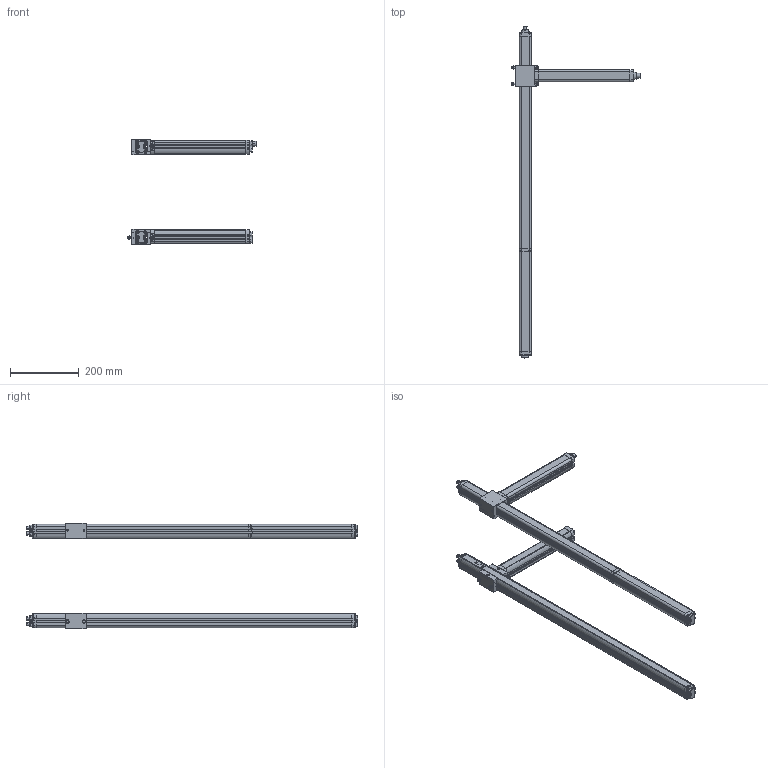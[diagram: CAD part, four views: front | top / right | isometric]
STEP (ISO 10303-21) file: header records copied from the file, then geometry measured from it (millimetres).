
FILE_DESCRIPTION((''),'2;1');
FILE_NAME('2015908_ASM','2014-05-13T',('rink'),(''),'PRO/ENGINEER BY PARAMETRIC TECHNOLOGY CORPORATION, 2011040','PRO/ENGINEER BY PARAMETRIC TECHNOLOGY CORPORATION, 2011040','');
FILE_SCHEMA(('AUTOMOTIVE_DESIGN_CC2 { 1 2 10303 214 -1 1 5 2 }'));
Length unit declared in the file: millimetre
Products named in the file (9): 2013527; 2013522; 2015862; 2003292; 2015891; 2015866; 2013524; 2015864; 2015908_ASM
Assembly tree (19 placements, depth 2):
  2015908_ASM
    2013527
    2013522
    2015862  x2
    2003292  x6
    2015891  x6
    2015866
    2013524
    2015864
Bounding box: 371.1 x 962 x 305.1 mm (x, y, z)
Volume: 4007880.9 mm3; surface area: 648630.1 mm2
Topology: 23 solids, 23 shells, 6240 faces, 14799 edges, 8682 vertices
Faces by surface type: bspline 1750, plane 1609, cylinder 1506, torus 634, extrusion 305, sphere 296, cone 140
Entity records: 281064 total; most frequent: CARTESIAN_POINT 129136, ORIENTED_EDGE 27816, DIRECTION 21492, EDGE_CURVE 13908, PRESENTATION_STYLE_ASSIGNMENT 9433, STYLED_ITEM 9310, CURVE_STYLE 9294, VERTEX_POINT 8110
